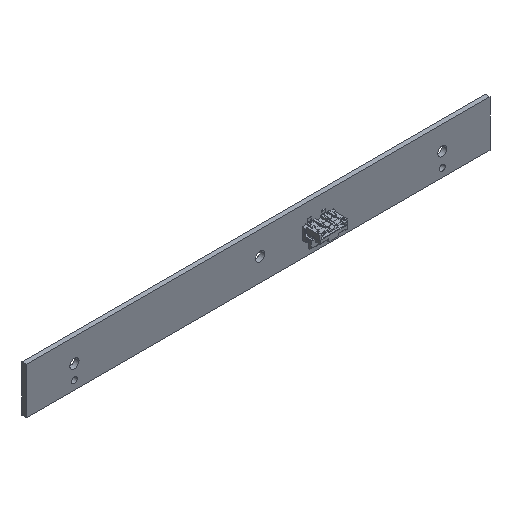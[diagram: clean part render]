
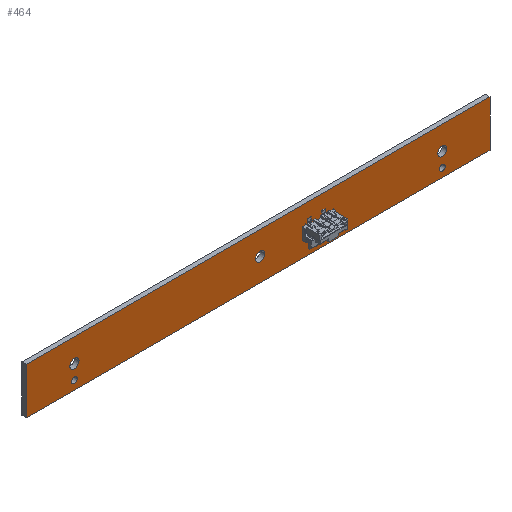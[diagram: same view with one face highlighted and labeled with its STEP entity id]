
A CAD part, isometric view. The second image highlights one B-rep face of the part: STEP entity #464.
In plain terms, the highlighted planar face has unit normal (0, -1, 0).
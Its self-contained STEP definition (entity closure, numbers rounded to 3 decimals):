
#49=DIRECTION('',(0.,0.,1.));
#50=VECTOR('',#49,16.);
#51=CARTESIAN_POINT('',(-80.,0.,-8.));
#52=LINE('',#51,#50);
#56=DIRECTION('',(1.,0.,0.));
#57=VECTOR('',#56,160.);
#58=CARTESIAN_POINT('',(-80.,0.,8.));
#59=LINE('',#58,#57);
#63=DIRECTION('',(0.,0.,-1.));
#64=VECTOR('',#63,16.);
#65=CARTESIAN_POINT('',(80.,0.,8.));
#66=LINE('',#65,#64);
#70=DIRECTION('',(-1.,0.,0.));
#71=VECTOR('',#70,160.);
#72=CARTESIAN_POINT('',(80.,0.,-8.));
#73=LINE('',#72,#71);
#77=CARTESIAN_POINT('',(-63.5,0.,0.));
#78=DIRECTION('',(0.,-1.,0.));
#79=DIRECTION('',(-1.,0.,0.));
#80=AXIS2_PLACEMENT_3D('',#77,#78,#79);
#85=CARTESIAN_POINT('',(-63.5,0.,0.));
#86=DIRECTION('',(0.,-1.,0.));
#87=DIRECTION('',(1.,0.,0.));
#88=AXIS2_PLACEMENT_3D('',#85,#86,#87);
#93=CARTESIAN_POINT('',(63.55,0.,0.));
#94=DIRECTION('',(0.,-1.,0.));
#95=DIRECTION('',(-1.,0.,0.));
#96=AXIS2_PLACEMENT_3D('',#93,#94,#95);
#101=CARTESIAN_POINT('',(63.55,0.,0.));
#102=DIRECTION('',(0.,-1.,0.));
#103=DIRECTION('',(1.,0.,0.));
#104=AXIS2_PLACEMENT_3D('',#101,#102,#103);
#109=CARTESIAN_POINT('',(63.55,0.,-5.));
#110=DIRECTION('',(0.,-1.,0.));
#111=DIRECTION('',(-1.,0.,0.));
#112=AXIS2_PLACEMENT_3D('',#109,#110,#111);
#117=CARTESIAN_POINT('',(63.55,0.,-5.));
#118=DIRECTION('',(0.,-1.,0.));
#119=DIRECTION('',(1.,0.,0.));
#120=AXIS2_PLACEMENT_3D('',#117,#118,#119);
#125=CARTESIAN_POINT('',(-63.5,0.,-5.));
#126=DIRECTION('',(0.,-1.,0.));
#127=DIRECTION('',(-1.,0.,0.));
#128=AXIS2_PLACEMENT_3D('',#125,#126,#127);
#133=CARTESIAN_POINT('',(-63.5,0.,-5.));
#134=DIRECTION('',(0.,-1.,0.));
#135=DIRECTION('',(1.,0.,0.));
#136=AXIS2_PLACEMENT_3D('',#133,#134,#135);
#141=CARTESIAN_POINT('',(0.6,0.,0.));
#142=DIRECTION('',(0.,-1.,0.));
#143=DIRECTION('',(-1.,0.,0.));
#144=AXIS2_PLACEMENT_3D('',#141,#142,#143);
#149=CARTESIAN_POINT('',(0.6,0.,0.));
#150=DIRECTION('',(0.,-1.,0.));
#151=DIRECTION('',(1.,0.,0.));
#152=AXIS2_PLACEMENT_3D('',#149,#150,#151);
#363=CARTESIAN_POINT('',(-80.,0.,-8.));
#364=CARTESIAN_POINT('',(-80.,0.,8.));
#365=VERTEX_POINT('',#363);
#366=VERTEX_POINT('',#364);
#367=CARTESIAN_POINT('',(80.,0.,8.));
#368=VERTEX_POINT('',#367);
#369=CARTESIAN_POINT('',(80.,0.,-8.));
#370=VERTEX_POINT('',#369);
#371=CARTESIAN_POINT('',(-65.1,0.,0.));
#372=CARTESIAN_POINT('',(-61.9,0.,0.));
#373=VERTEX_POINT('',#371);
#374=VERTEX_POINT('',#372);
#375=CARTESIAN_POINT('',(61.95,0.,0.));
#376=CARTESIAN_POINT('',(65.15,0.,0.));
#377=VERTEX_POINT('',#375);
#378=VERTEX_POINT('',#376);
#379=CARTESIAN_POINT('',(62.55,0.,-5.));
#380=CARTESIAN_POINT('',(64.55,0.,-5.));
#381=VERTEX_POINT('',#379);
#382=VERTEX_POINT('',#380);
#383=CARTESIAN_POINT('',(-64.5,0.,-5.));
#384=CARTESIAN_POINT('',(-62.5,0.,-5.));
#385=VERTEX_POINT('',#383);
#386=VERTEX_POINT('',#384);
#387=CARTESIAN_POINT('',(-1.,0.,0.));
#388=CARTESIAN_POINT('',(2.2,0.,0.));
#389=VERTEX_POINT('',#387);
#390=VERTEX_POINT('',#388);
#419=CARTESIAN_POINT('',(0.,0.,0.));
#420=DIRECTION('',(0.,1.,0.));
#421=DIRECTION('',(1.,0.,0.));
#422=AXIS2_PLACEMENT_3D('',#419,#420,#421);
#423=PLANE('',#422);
#425=ORIENTED_EDGE('',*,*,#424,.T.);
#427=ORIENTED_EDGE('',*,*,#426,.T.);
#429=ORIENTED_EDGE('',*,*,#428,.T.);
#431=ORIENTED_EDGE('',*,*,#430,.T.);
#432=EDGE_LOOP('',(#425,#427,#429,#431));
#433=FACE_OUTER_BOUND('',#432,.F.);
#435=ORIENTED_EDGE('',*,*,#434,.T.);
#437=ORIENTED_EDGE('',*,*,#436,.T.);
#438=EDGE_LOOP('',(#435,#437));
#439=FACE_BOUND('',#438,.F.);
#441=ORIENTED_EDGE('',*,*,#440,.T.);
#443=ORIENTED_EDGE('',*,*,#442,.T.);
#444=EDGE_LOOP('',(#441,#443));
#445=FACE_BOUND('',#444,.F.);
#447=ORIENTED_EDGE('',*,*,#446,.T.);
#449=ORIENTED_EDGE('',*,*,#448,.T.);
#450=EDGE_LOOP('',(#447,#449));
#451=FACE_BOUND('',#450,.F.);
#453=ORIENTED_EDGE('',*,*,#452,.T.);
#455=ORIENTED_EDGE('',*,*,#454,.T.);
#456=EDGE_LOOP('',(#453,#455));
#457=FACE_BOUND('',#456,.F.);
#459=ORIENTED_EDGE('',*,*,#458,.T.);
#461=ORIENTED_EDGE('',*,*,#460,.T.);
#462=EDGE_LOOP('',(#459,#461));
#463=FACE_BOUND('',#462,.F.);
#81=CIRCLE('',#80,1.6);
#89=CIRCLE('',#88,1.6);
#97=CIRCLE('',#96,1.6);
#105=CIRCLE('',#104,1.6);
#113=CIRCLE('',#112,1.);
#121=CIRCLE('',#120,1.);
#129=CIRCLE('',#128,1.);
#137=CIRCLE('',#136,1.);
#145=CIRCLE('',#144,1.6);
#153=CIRCLE('',#152,1.6);
#424=EDGE_CURVE('',#365,#366,#52,.T.);
#426=EDGE_CURVE('',#366,#368,#59,.T.);
#428=EDGE_CURVE('',#368,#370,#66,.T.);
#430=EDGE_CURVE('',#370,#365,#73,.T.);
#434=EDGE_CURVE('',#373,#374,#81,.T.);
#436=EDGE_CURVE('',#374,#373,#89,.T.);
#440=EDGE_CURVE('',#377,#378,#97,.T.);
#442=EDGE_CURVE('',#378,#377,#105,.T.);
#446=EDGE_CURVE('',#381,#382,#113,.T.);
#448=EDGE_CURVE('',#382,#381,#121,.T.);
#452=EDGE_CURVE('',#385,#386,#129,.T.);
#454=EDGE_CURVE('',#386,#385,#137,.T.);
#458=EDGE_CURVE('',#389,#390,#145,.T.);
#460=EDGE_CURVE('',#390,#389,#153,.T.);
#464=ADVANCED_FACE('',(#433,#439,#445,#451,#457,#463),#423,.F.);
